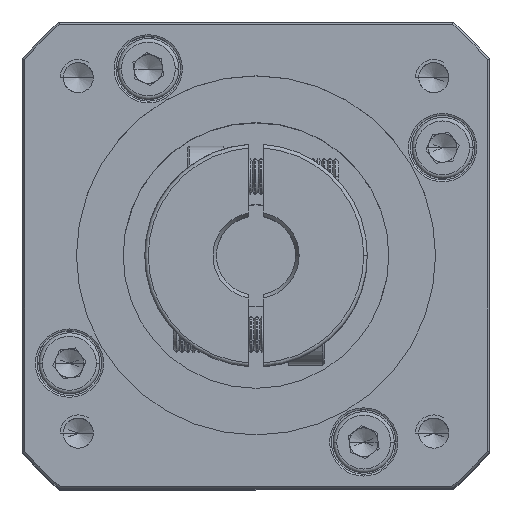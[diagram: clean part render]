
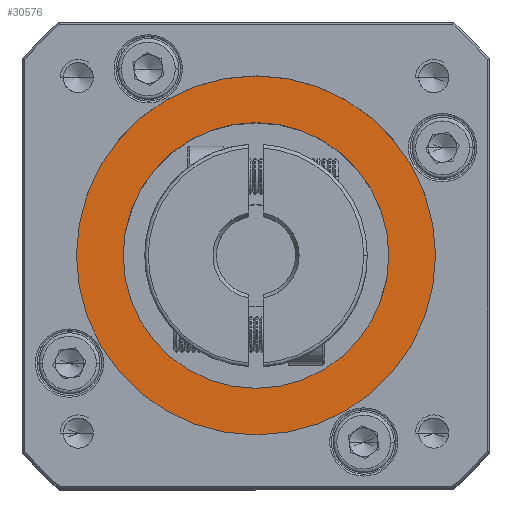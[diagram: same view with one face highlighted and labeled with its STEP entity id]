
A CAD part, top view. The second image highlights one B-rep face of the part: STEP entity #30576.
In plain terms, the highlighted planar face has unit normal (0, 0, 1).
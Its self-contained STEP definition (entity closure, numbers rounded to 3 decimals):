
#2284 = CARTESIAN_POINT ( 'NONE',  ( -70.559, 38.277, 30.705 ) ) ;
#4001 = AXIS2_PLACEMENT_3D ( 'NONE', #73758, #23159, #82231 ) ;
#6007 = DIRECTION ( 'NONE',  ( 1., 0., 0. ) ) ;
#10792 = DIRECTION ( 'NONE',  ( 1., 0., 0. ) ) ;
#11757 = CARTESIAN_POINT ( 'NONE',  ( -70.559, 38.277, 30.705 ) ) ;
#12811 = FACE_OUTER_BOUND ( 'NONE', #67166, .T. ) ;
#15059 = AXIS2_PLACEMENT_3D ( 'NONE', #28710, #87708, #37205 ) ;
#20252 = DIRECTION ( 'NONE',  ( 1., 0., 0. ) ) ;
#21934 = CIRCLE ( 'NONE', #15059, 25. ) ;
#23159 = DIRECTION ( 'NONE',  ( 0., 0., -1. ) ) ;
#25878 = ORIENTED_EDGE ( 'NONE', *, *, #62507, .T. ) ;
#28710 = CARTESIAN_POINT ( 'NONE',  ( -70.559, 38.277, 30.705 ) ) ;
#29772 = EDGE_CURVE ( 'NONE', #47402, #37210, #92290, .T. ) ;
#30576 = ADVANCED_FACE ( 'NONE', ( #12811, #35232 ), #36880, .T. ) ;
#32498 = AXIS2_PLACEMENT_3D ( 'NONE', #107126, #56739, #6007 ) ;
#33949 = CARTESIAN_POINT ( 'NONE',  ( -45.559, 38.277, 30.705 ) ) ;
#35232 = FACE_BOUND ( 'NONE', #105757, .T. ) ;
#36880 = PLANE ( 'NONE',  #103231 ) ;
#37205 = DIRECTION ( 'NONE',  ( 1., 0., 0. ) ) ;
#37210 = VERTEX_POINT ( 'NONE', #103965 ) ;
#45662 = AXIS2_PLACEMENT_3D ( 'NONE', #2284, #61442, #10792 ) ;
#46379 = VERTEX_POINT ( 'NONE', #93602 ) ;
#46704 = VERTEX_POINT ( 'NONE', #79708 ) ;
#47402 = VERTEX_POINT ( 'NONE', #33949 ) ;
#56739 = DIRECTION ( 'NONE',  ( 0., 0., 1. ) ) ;
#61055 = CIRCLE ( 'NONE', #45662, 18.5 ) ;
#61442 = DIRECTION ( 'NONE',  ( 0., 0., -1. ) ) ;
#62507 = EDGE_CURVE ( 'NONE', #46379, #46704, #88206, .T. ) ;
#67166 = EDGE_LOOP ( 'NONE', ( #88572, #100076 ) ) ;
#70885 = DIRECTION ( 'NONE',  ( 0., 0., 1. ) ) ;
#73758 = CARTESIAN_POINT ( 'NONE',  ( -70.559, 38.277, 30.705 ) ) ;
#79708 = CARTESIAN_POINT ( 'NONE',  ( -89.059, 38.277, 30.705 ) ) ;
#82231 = DIRECTION ( 'NONE',  ( 1., 0., 0. ) ) ;
#87708 = DIRECTION ( 'NONE',  ( 0., 0., 1. ) ) ;
#88206 = CIRCLE ( 'NONE', #4001, 18.5 ) ;
#88572 = ORIENTED_EDGE ( 'NONE', *, *, #29772, .T. ) ;
#92290 = CIRCLE ( 'NONE', #32498, 25. ) ;
#93602 = CARTESIAN_POINT ( 'NONE',  ( -52.059, 38.277, 30.705 ) ) ;
#93648 = ORIENTED_EDGE ( 'NONE', *, *, #99675, .T. ) ;
#98445 = EDGE_CURVE ( 'NONE', #37210, #47402, #21934, .T. ) ;
#99675 = EDGE_CURVE ( 'NONE', #46704, #46379, #61055, .T. ) ;
#100076 = ORIENTED_EDGE ( 'NONE', *, *, #98445, .T. ) ;
#103231 = AXIS2_PLACEMENT_3D ( 'NONE', #11757, #70885, #20252 ) ;
#103965 = CARTESIAN_POINT ( 'NONE',  ( -95.559, 38.277, 30.705 ) ) ;
#105757 = EDGE_LOOP ( 'NONE', ( #25878, #93648 ) ) ;
#107126 = CARTESIAN_POINT ( 'NONE',  ( -70.559, 38.277, 30.705 ) ) ;
